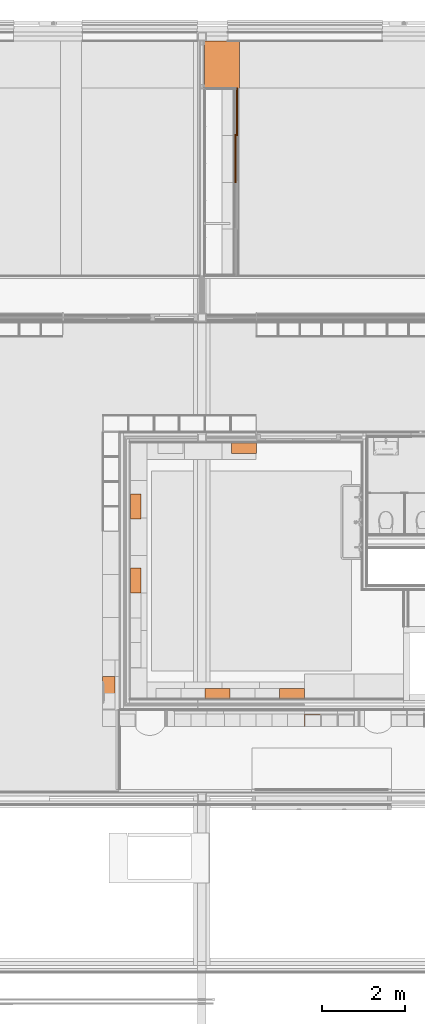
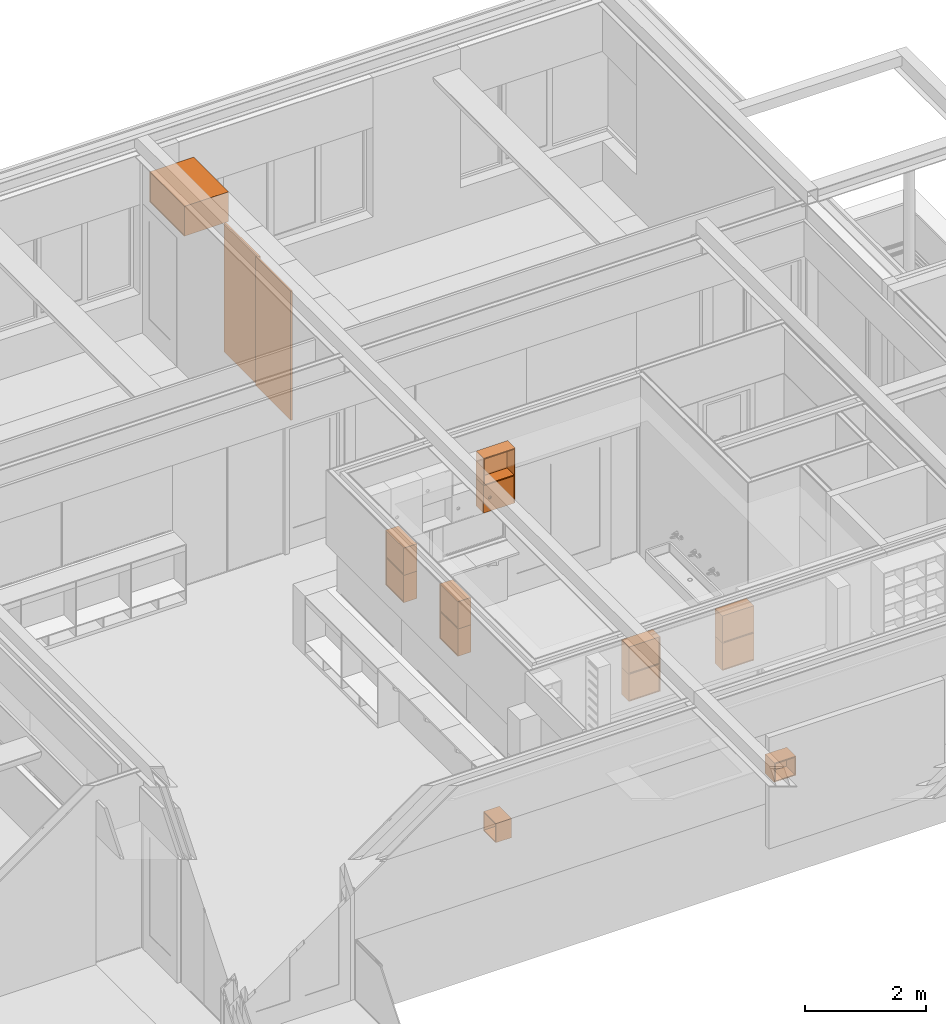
# One storey, part 125 of 137: 15 proxies.
"""IFC2X3 building model written with IfcOpenShell, lengths in millimetres."""

from ifc_helpers import new_model, entity, si_unit, converted_unit, derived_unit, money_unit, direction, frame, origin_with_axes, place, context, subcontext, project, spatial, faceted_brep, source, transform, mapped, type_object, type_shapes, element, save


model = new_model("IFC2X3")

# Units and contexts
model_context = context("Model", 3, precision=0.01, world=origin_with_axes(), true_north=direction((0.0, 1.0)))
body_context = subcontext(model_context, "Body", "Model", "MODEL_VIEW")
ifc_project = project(units=[si_unit("LENGTHUNIT", "METRE", prefix="MILLI"), si_unit("AREAUNIT", "SQUARE_METRE"), si_unit("VOLUMEUNIT", "CUBIC_METRE"), converted_unit("PLANEANGLEUNIT", "DEGREE", entity("IfcPlaneAngleMeasure", 0.0174532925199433), si_unit("PLANEANGLEUNIT", "RADIAN"), dimensions=[0, 0, 0, 0, 0, 0, 0]), money_unit("EUR"), converted_unit("TIMEUNIT", "Year", entity("IfcTimeMeasure", 31556926.0), si_unit("TIMEUNIT", "SECOND"), dimensions=[0, 0, 1, 0, 0, 0, 0]), si_unit("MASSUNIT", "GRAM", prefix="KILO"), si_unit("THERMODYNAMICTEMPERATUREUNIT", "DEGREE_CELSIUS"), si_unit("LUMINOUSINTENSITYUNIT", "LUMEN"), si_unit("ENERGYUNIT", "JOULE", prefix="MEGA"), derived_unit("THERMALCONDUCTANCEUNIT", [(si_unit("POWERUNIT", "WATT"), 1), (si_unit("LENGTHUNIT", "METRE"), -1), (si_unit("THERMODYNAMICTEMPERATUREUNIT", "KELVIN"), -1)]), derived_unit("SPECIFICHEATCAPACITYUNIT", [(si_unit("ENERGYUNIT", "JOULE"), 1), (si_unit("MASSUNIT", "GRAM", prefix="KILO"), -1), (si_unit("THERMODYNAMICTEMPERATUREUNIT", "KELVIN"), -1)]), derived_unit("MASSDENSITYUNIT", [(si_unit("MASSUNIT", "GRAM", prefix="KILO"), 1), (si_unit("VOLUMEUNIT", "CUBIC_METRE"), -1)])], contexts=[model_context])

# Site, building, storey
site_placement = place(None, origin_with_axes())
site = spatial("IfcSite", under=ifc_project, at=site_placement, Name="Site", CompositionType="ELEMENT")
building_placement = place(site_placement, origin_with_axes())
building = spatial("IfcBuilding", under=site, at=building_placement, Name="Naam gebouw", CompositionType="ELEMENT")
storey_placement = place(building_placement, frame((0.0, 0.0, 3960.0), z_axis=(0.0, 0.0, 1.0), x_axis=(1.0, 0.0, 0.0)))
storey = spatial("IfcBuildingStorey", under=building, at=storey_placement, Name="1e verdieping", CompositionType="ELEMENT", Elevation=3960.0)

# Proxies
building_element_proxy_type_1 = type_object("IfcBuildingElementProxyType", Name="Onderkast recht 26", PredefinedType="NOTDEFINED")
shared_shape_1 = source(origin_with_axes(), body_context, "Body", "Brep", [
    faceted_brep([(-1.0, -826.9999999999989, 1.0), (-1.0, -844.9999999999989, 1.000000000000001), (-1152.000152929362, -844.9999999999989, 1.000000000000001), (-1152.000152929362, -826.9999999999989, 1.0), (-1.0, -826.9999999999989, 599.0), (-1.0, -844.9999999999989, 599.0), (-1152.000152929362, -844.9999999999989, 599.0), (-1152.000152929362, -826.9999999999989, 599.0)], [[[0, 1, 2, 3]], [[4, 5, 1, 0]], [[1, 5, 6, 2]], [[3, 2, 6, 7]], [[0, 3, 7, 4]], [[7, 6, 5, 4]]]),
    faceted_brep([(-18.0, -826.9999999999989, 0.0), (-18.0, -826.9999999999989, 18.0), (-1135.000152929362, -826.9999999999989, 18.0), (-1135.000152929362, -826.9999999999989, 0.0), (-18.0, 0.0, 0.0), (-18.0, 0.0, 18.0), (-1135.000152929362, 0.0, 18.0), (-1135.000152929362, 0.0, 0.0)], [[[0, 1, 2, 3]], [[4, 5, 1, 0]], [[1, 5, 6, 2]], [[3, 2, 6, 7]], [[0, 3, 7, 4]], [[7, 6, 5, 4]]]),
    faceted_brep([(-18.0, -826.9999999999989, 582.0), (-18.0, -826.9999999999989, 600.0), (-1135.000152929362, -826.9999999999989, 600.0), (-1135.000152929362, -826.9999999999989, 582.0), (-18.0, 0.0, 582.0), (-18.0, 0.0, 600.0), (-1135.000152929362, 0.0, 600.0), (-1135.000152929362, 0.0, 582.0)], [[[0, 1, 2, 3]], [[4, 5, 1, 0]], [[1, 5, 6, 2]], [[3, 2, 6, 7]], [[0, 3, 7, 4]], [[7, 6, 5, 4]]]),
    faceted_brep([(0.0, 0.0, 0.0), (0.0, 0.0, 600.0), (0.0, -826.9999999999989, 600.0), (0.0, -826.9999999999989, 0.0), (-18.0, 0.0, 0.0), (-18.0, 0.0, 600.0), (-18.0, -826.9999999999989, 600.0), (-18.0, -826.9999999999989, 0.0)], [[[0, 1, 2, 3]], [[4, 5, 1, 0]], [[1, 5, 6, 2]], [[3, 2, 6, 7]], [[0, 3, 7, 4]], [[7, 6, 5, 4]]]),
    faceted_brep([(-1153.000152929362, -826.9999999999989, 0.0), (-1153.000152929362, -826.9999999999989, 600.0), (-1153.000152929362, 0.0, 600.0), (-1153.000152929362, 0.0, 0.0), (-1135.000152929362, -826.9999999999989, 0.0), (-1135.000152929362, -826.9999999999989, 600.0), (-1135.000152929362, 0.0, 600.0), (-1135.000152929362, 0.0, 0.0)], [[[0, 1, 2, 3]], [[4, 5, 1, 0]], [[1, 5, 6, 2]], [[3, 2, 6, 7]], [[0, 3, 7, 4]], [[7, 6, 5, 4]]]),
    faceted_brep([(-1135.000152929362, -9.0, 18.0), (-1135.000152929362, -9.0, 582.0), (-18.00000000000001, -9.0, 582.0), (-18.00000000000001, -9.0, 18.0), (-1135.000152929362, -18.0, 18.0), (-1135.000152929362, -18.0, 582.0), (-18.00000000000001, -18.0, 582.0), (-18.00000000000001, -18.0, 18.0)], [[[0, 1, 2, 3]], [[4, 5, 1, 0]], [[1, 5, 6, 2]], [[3, 2, 6, 7]], [[0, 3, 7, 4]], [[7, 6, 5, 4]]]),
])
proxy_1_placement = place(storey_placement, frame((17762.49942456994, 28961.0, 2600.0), z_axis=(0.0, 0.0, 1.0), x_axis=(0.0, 1.0, 0.0)))
element("IfcBuildingElementProxy", 1, at=proxy_1_placement, inside=storey, type_object=building_element_proxy_type_1, Name="_Leeg", context=body_context, shape_type="MappedRepresentation", body=[
    mapped(shared_shape_1, transform((0.0, 0.0, 0.0))),
])
building_element_proxy_type_2 = type_object("IfcBuildingElementProxyType", Name="gevelbekleding", PredefinedType="NOTDEFINED")
shared_shape_2 = source(origin_with_axes(), body_context, "Body", "Brep", [
    faceted_brep([(570.0000707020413, 0.0, 0.0), (570.0000707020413, -35.0, 0.0), (565.0000707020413, -35.0, 0.0), (565.0000707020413, 0.0, 0.0), (570.0000707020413, 0.0, 2600.0), (570.0000707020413, -35.0, 2600.0), (565.0000707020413, -35.0, 2600.0), (565.0000707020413, 0.0, 2600.0)], [[[0, 1, 2, 3]], [[4, 5, 1, 0]], [[1, 5, 6, 2]], [[3, 2, 6, 7]], [[0, 3, 7, 4]], [[7, 6, 5, 4]]]),
    faceted_brep([(-570.0000707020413, 0.0, 0.0), (-570.0000707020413, -35.0, 0.0), (-570.0000707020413, -35.0, 2600.0), (-570.0000707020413, 0.0, 2600.0), (-565.0000707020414, 0.0, 0.0), (-565.0000707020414, -35.0, 0.0), (-565.0000707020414, -35.0, 2600.0), (-565.0000707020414, 0.0, 2600.0)], [[[0, 1, 2, 3]], [[4, 5, 1, 0]], [[1, 5, 6, 2]], [[3, 2, 6, 7]], [[0, 3, 7, 4]], [[7, 6, 5, 4]]]),
    faceted_brep([(570.0000707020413, 0.0, 0.0), (570.0000707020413, -35.0, 0.0), (-570.0000707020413, -35.0, 0.0), (-570.0000707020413, 0.0, 0.0), (570.0000707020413, 0.0, 2600.0), (570.0000707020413, -35.0, 2600.0), (-570.0000707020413, -35.0, 2600.0), (-570.0000707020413, 0.0, 2600.0)], [[[0, 1, 2, 3]], [[4, 5, 1, 0]], [[1, 5, 6, 2]], [[3, 2, 6, 7]], [[0, 3, 7, 4]], [[7, 6, 5, 4]]]),
])
proxy_2_placement = place(storey_placement, frame((18562.49942456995, 27827.99984229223, 0.0), z_axis=(0.0, 0.0, 1.0), x_axis=(0.0, -1.0, 0.0)))
element("IfcBuildingElementProxy", 2, at=proxy_2_placement, inside=storey, type_object=building_element_proxy_type_2, Name="_-", context=body_context, shape_type="MappedRepresentation", body=[
    mapped(shared_shape_2, transform((570.00007070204, 0.0, 0.0))),
])
shared_shape_3 = source(origin_with_axes(), body_context, "Body", "Brep", [
    faceted_brep([(-577.5, 0.0, 0.0), (-572.5, 0.0, 0.0), (-572.5, -35.0, 0.0), (-577.5, -35.0, 0.0), (-577.5, 0.0, 2600.0), (-572.5, 0.0, 2600.0), (-572.5, -35.0, 2600.0), (-577.5, -35.0, 2600.0)], [[[0, 1, 2, 3]], [[0, 4, 5, 1]], [[1, 5, 6, 2]], [[3, 2, 6, 7]], [[4, 0, 3, 7]], [[5, 4, 7, 6]]]),
    faceted_brep([(577.5, 0.0, 0.0), (577.5, 0.0, 2600.0), (577.5, -35.0, 2600.0), (577.5, -35.0, 0.0), (572.5000000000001, 0.0, 0.0), (572.5000000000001, 0.0, 2600.0), (572.5000000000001, -35.0, 2600.0), (572.5000000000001, -35.0, 0.0)], [[[0, 1, 2, 3]], [[0, 4, 5, 1]], [[1, 5, 6, 2]], [[3, 2, 6, 7]], [[4, 0, 3, 7]], [[5, 4, 7, 6]]]),
    faceted_brep([(-577.5, 0.0, 0.0), (577.5, 0.0, 0.0), (577.5, -35.0, 0.0), (-577.5, -35.0, 0.0), (-577.5, 0.0, 2600.0), (577.5, 0.0, 2600.0), (577.5, -35.0, 2600.0), (-577.5, -35.0, 2600.0)], [[[0, 1, 2, 3]], [[0, 4, 5, 1]], [[1, 5, 6, 2]], [[3, 2, 6, 7]], [[4, 0, 3, 7]], [[5, 4, 7, 6]]]),
])
type_shapes(building_element_proxy_type_2, [shared_shape_2, shared_shape_3])
proxy_3_placement = place(storey_placement, frame((18562.49942456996, 26717.99977159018, 0.0), z_axis=(0.0, 0.0, 1.0), x_axis=(0.0, -1.0, 0.0)))
element("IfcBuildingElementProxy", 3, at=proxy_3_placement, inside=storey, type_object=building_element_proxy_type_2, Name="_-", context=body_context, shape_type="MappedRepresentation", body=[
    mapped(shared_shape_3, transform((577.5000000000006, -34.99999999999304, 0.0))),
])
shared_shape_4 = source(origin_with_axes(), body_context, "Body", "Brep", [
    faceted_brep([(-580.9999999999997, -250.0, 19.00000000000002), (-19.00000000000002, -250.0, 19.00000000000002), (-19.00000000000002, -250.0, 531.0000000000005), (-580.9999999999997, -250.0, 531.0000000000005), (-511.1907786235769, -250.0, 286.2606042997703), (-508.9807621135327, -250.0, 291.0000000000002), (-505.981333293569, -250.0, 295.2836282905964), (-502.2836282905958, -250.0, 298.9813332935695), (-497.9999999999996, -250.0, 301.9807621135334), (-493.2606042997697, -250.0, 304.1907786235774), (-488.2094453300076, -250.0, 305.5442325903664), (-482.9999999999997, -250.0, 306.0000000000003), (-477.7905546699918, -250.0, 305.5442325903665), (-472.7393957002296, -250.0, 304.1907786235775), (-467.9999999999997, -250.0, 301.9807621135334), (-463.7163717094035, -250.0, 298.9813332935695), (-460.0186667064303, -250.0, 295.2836282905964), (-457.0192378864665, -250.0, 291.0000000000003), (-454.8092213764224, -250.0, 286.2606042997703), (-453.4557674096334, -250.0, 281.2094453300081), (-452.9999999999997, -250.0, 276.0000000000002), (-453.4557674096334, -250.0, 270.7905546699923), (-454.8092213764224, -250.0, 265.7393957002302), (-457.0192378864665, -250.0, 261.0000000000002), (-460.0186667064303, -250.0, 256.7163717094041), (-463.7163717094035, -250.0, 253.0186667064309), (-467.9999999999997, -250.0, 250.0192378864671), (-472.7393957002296, -250.0, 247.809221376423), (-477.7905546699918, -250.0, 246.455767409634), (-482.9999999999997, -250.0, 246.0000000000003), (-488.2094453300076, -250.0, 246.455767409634), (-493.2606042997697, -250.0, 247.809221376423), (-497.9999999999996, -250.0, 250.0192378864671), (-502.2836282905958, -250.0, 253.0186667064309), (-505.981333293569, -250.0, 256.7163717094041), (-508.9807621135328, -250.0, 261.0000000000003), (-511.1907786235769, -250.0, 265.7393957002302), (-512.5442325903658, -250.0, 270.7905546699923), (-512.9999999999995, -250.0, 276.0000000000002), (-512.5442325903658, -250.0, 281.2094453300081), (-580.9999999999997, -232.0, 19.00000000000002), (-19.00000000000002, -232.0, 19.00000000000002), (-19.00000000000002, -232.0, 531.0000000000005), (-580.9999999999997, -232.0, 531.0000000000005), (-508.9807621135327, -232.0, 291.0000000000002), (-511.1907786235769, -232.0, 286.2606042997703), (-505.981333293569, -232.0, 295.2836282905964), (-502.2836282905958, -232.0, 298.9813332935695), (-497.9999999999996, -232.0, 301.9807621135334), (-493.2606042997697, -232.0, 304.1907786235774), (-488.2094453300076, -232.0, 305.5442325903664), (-482.9999999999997, -232.0, 306.0000000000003), (-477.7905546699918, -232.0, 305.5442325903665), (-472.7393957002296, -232.0, 304.1907786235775), (-467.9999999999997, -232.0, 301.9807621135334), (-463.7163717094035, -232.0, 298.9813332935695), (-460.0186667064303, -232.0, 295.2836282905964), (-457.0192378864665, -232.0, 291.0000000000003), (-454.8092213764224, -232.0, 286.2606042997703), (-453.4557674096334, -232.0, 281.2094453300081), (-452.9999999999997, -232.0, 276.0000000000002), (-453.4557674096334, -232.0, 270.7905546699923), (-454.8092213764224, -232.0, 265.7393957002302), (-457.0192378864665, -232.0, 261.0000000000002), (-460.0186667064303, -232.0, 256.7163717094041), (-463.7163717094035, -232.0, 253.0186667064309), (-467.9999999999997, -232.0, 250.0192378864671), (-472.7393957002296, -232.0, 247.809221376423), (-477.7905546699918, -232.0, 246.455767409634), (-482.9999999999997, -232.0, 246.0000000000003), (-488.2094453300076, -232.0, 246.455767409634), (-493.2606042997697, -232.0, 247.809221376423), (-497.9999999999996, -232.0, 250.0192378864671), (-502.2836282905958, -232.0, 253.0186667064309), (-505.981333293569, -232.0, 256.7163717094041), (-508.9807621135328, -232.0, 261.0000000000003), (-511.1907786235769, -232.0, 265.7393957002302), (-512.5442325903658, -232.0, 270.7905546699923), (-512.9999999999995, -232.0, 276.0000000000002), (-512.5442325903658, -232.0, 281.2094453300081)], [[[0, 1, 2, 3], [4, 5, 6, 7, 8, 9, 10, 11, 12, 13, 14, 15, 16, 17, 18, 19, 20, 21, 22, 23, 24, 25, 26, 27, 28, 29, 30, 31, 32, 33, 34, 35, 36, 37, 38, 39]], [[40, 41, 1, 0]], [[41, 42, 2, 1]], [[42, 43, 3, 2]], [[43, 40, 0, 3]], [[44, 5, 4, 45]], [[46, 6, 5, 44]], [[47, 7, 6, 46]], [[48, 8, 7, 47]], [[49, 9, 8, 48]], [[50, 10, 9, 49]], [[51, 11, 10, 50]], [[52, 12, 11, 51]], [[53, 13, 12, 52]], [[54, 14, 13, 53]], [[55, 15, 14, 54]], [[56, 16, 15, 55]], [[57, 17, 16, 56]], [[58, 18, 17, 57]], [[59, 19, 18, 58]], [[60, 20, 19, 59]], [[61, 21, 20, 60]], [[62, 22, 21, 61]], [[63, 23, 22, 62]], [[64, 24, 23, 63]], [[65, 25, 24, 64]], [[66, 26, 25, 65]], [[67, 27, 26, 66]], [[68, 28, 27, 67]], [[69, 29, 28, 68]], [[70, 30, 29, 69]], [[71, 31, 30, 70]], [[72, 32, 31, 71]], [[73, 33, 32, 72]], [[74, 34, 33, 73]], [[75, 35, 34, 74]], [[76, 36, 35, 75]], [[77, 37, 36, 76]], [[78, 38, 37, 77]], [[79, 39, 38, 78]], [[45, 4, 39, 79]], [[42, 41, 40, 43], [76, 75, 74, 73, 72, 71, 70, 69, 68, 67, 66, 65, 64, 63, 62, 61, 60, 59, 58, 57, 56, 55, 54, 53, 52, 51, 50, 49, 48, 47, 46, 44, 45, 79, 78, 77]]]),
    faceted_brep([(-18.0, -250.0, 0.0), (-18.0, -250.0, 18.0), (-581.9999999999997, -250.0, 18.0), (-581.9999999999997, -250.0, 0.0), (-18.0, 0.0, 0.0), (-18.0, 0.0, 18.0), (-581.9999999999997, 0.0, 18.0), (-581.9999999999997, 0.0, 0.0)], [[[0, 1, 2, 3]], [[4, 5, 1, 0]], [[1, 5, 6, 2]], [[3, 2, 6, 7]], [[0, 3, 7, 4]], [[7, 6, 5, 4]]]),
    faceted_brep([(-18.0, -250.0, 532.0000000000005), (-18.0, -250.0, 550.0000000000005), (-581.9999999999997, -250.0, 550.0000000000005), (-581.9999999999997, -250.0, 532.0000000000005), (-18.0, 0.0, 532.0000000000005), (-18.0, 0.0, 550.0000000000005), (-581.9999999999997, 0.0, 550.0000000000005), (-581.9999999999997, 0.0, 532.0000000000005)], [[[0, 1, 2, 3]], [[4, 5, 1, 0]], [[1, 5, 6, 2]], [[3, 2, 6, 7]], [[0, 3, 7, 4]], [[7, 6, 5, 4]]]),
    faceted_brep([(0.0, 0.0, 0.0), (0.0, 0.0, 550.0000000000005), (0.0, -250.0, 550.0000000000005), (0.0, -250.0, 0.0), (-18.0, 0.0, 0.0), (-18.0, 0.0, 550.0000000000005), (-18.0, -250.0, 550.0000000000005), (-18.0, -250.0, 0.0)], [[[0, 1, 2, 3]], [[4, 5, 1, 0]], [[1, 5, 6, 2]], [[3, 2, 6, 7]], [[0, 3, 7, 4]], [[7, 6, 5, 4]]]),
    faceted_brep([(-599.9999999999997, -250.0, 0.0), (-599.9999999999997, -250.0, 550.0000000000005), (-599.9999999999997, 0.0, 550.0000000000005), (-599.9999999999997, 0.0, 0.0), (-581.9999999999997, -250.0, 0.0), (-581.9999999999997, -250.0, 550.0000000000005), (-581.9999999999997, 0.0, 550.0000000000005), (-581.9999999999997, 0.0, 0.0)], [[[0, 1, 2, 3]], [[4, 5, 1, 0]], [[1, 5, 6, 2]], [[3, 2, 6, 7]], [[0, 3, 7, 4]], [[7, 6, 5, 4]]]),
    faceted_brep([(-581.9999999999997, -9.0, 18.0), (-581.9999999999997, -9.0, 532.0000000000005), (-18.00000000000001, -9.0, 532.0000000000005), (-18.00000000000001, -9.0, 18.0), (-581.9999999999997, -18.0, 18.0), (-581.9999999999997, -18.0, 532.0000000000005), (-18.00000000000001, -18.0, 532.0000000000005), (-18.00000000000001, -18.0, 18.0)], [[[0, 1, 2, 3]], [[4, 5, 1, 0]], [[1, 5, 6, 2]], [[3, 2, 6, 7]], [[0, 3, 7, 4]], [[7, 6, 5, 4]]]),
])
for number, where, z_axis, x_axis in (
    (4, (15984.99945960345, 16312.00727895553, 2650.000000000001), (0.0, 0.0, 1.0), (0.0, 1.0, 0.0)),
    (5, (15984.99945960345, 18094.00727895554, 2100.0), (0.0, 0.0, 1.0), (0.0, 1.0, 0.0)),
    (6, (19014.99945671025, 19314.9998112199, 2100.0), (0.0, 0.0, 1.0), (1.0, 0.0, 0.0)),
):
    element("IfcBuildingElementProxy", number, at=place(storey_placement, frame(where, z_axis=z_axis, x_axis=x_axis)), inside=storey, type_object=building_element_proxy_type_1, Name="_Leeg", context=body_context, shape_type="MappedRepresentation", body=[
        mapped(shared_shape_4, transform((0.0, 0.0, 0.0))),
    ])
shared_shape_5 = source(origin_with_axes(), body_context, "Body", "Brep", [
    faceted_brep([(18.0, -250.0, 0.0), (582.0, -250.0, 0.0), (582.0, -250.0, 18.0), (18.0, -250.0, 18.0), (18.0, 0.0, 0.0), (582.0, 0.0, 0.0), (582.0, 0.0, 18.0), (18.0, 0.0, 18.0)], [[[0, 1, 2, 3]], [[0, 4, 5, 1]], [[1, 5, 6, 2]], [[3, 2, 6, 7]], [[4, 0, 3, 7]], [[5, 4, 7, 6]]]),
    faceted_brep([(18.0, -250.0, 531.9999999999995), (582.0, -250.0, 531.9999999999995), (582.0, -250.0, 549.9999999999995), (18.0, -250.0, 549.9999999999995), (18.0, 0.0, 531.9999999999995), (582.0, 0.0, 531.9999999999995), (582.0, 0.0, 549.9999999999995), (18.0, 0.0, 549.9999999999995)], [[[0, 1, 2, 3]], [[0, 4, 5, 1]], [[1, 5, 6, 2]], [[3, 2, 6, 7]], [[4, 0, 3, 7]], [[5, 4, 7, 6]]]),
    faceted_brep([(0.0, 0.0, 0.0), (0.0, -250.0, 0.0), (0.0, -250.0, 549.9999999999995), (0.0, 0.0, 549.9999999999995), (18.0, 0.0, 0.0), (18.0, -250.0, 0.0), (18.0, -250.0, 549.9999999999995), (18.0, 0.0, 549.9999999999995)], [[[0, 1, 2, 3]], [[0, 4, 5, 1]], [[1, 5, 6, 2]], [[3, 2, 6, 7]], [[4, 0, 3, 7]], [[5, 4, 7, 6]]]),
    faceted_brep([(600.0, -250.0, 0.0), (600.0, 0.0, 0.0), (600.0, 0.0, 549.9999999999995), (600.0, -250.0, 549.9999999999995), (582.0, -250.0, 0.0), (582.0, 0.0, 0.0), (582.0, 0.0, 549.9999999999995), (582.0, -250.0, 549.9999999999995)], [[[0, 1, 2, 3]], [[0, 4, 5, 1]], [[1, 5, 6, 2]], [[3, 2, 6, 7]], [[4, 0, 3, 7]], [[5, 4, 7, 6]]]),
    faceted_brep([(582.0, -9.0, 18.0), (18.00000000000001, -9.0, 18.0), (18.00000000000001, -9.0, 531.9999999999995), (582.0, -9.0, 531.9999999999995), (582.0, -18.0, 18.0), (18.00000000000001, -18.0, 18.0), (18.00000000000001, -18.0, 531.9999999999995), (582.0, -18.0, 531.9999999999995)], [[[0, 1, 2, 3]], [[0, 4, 5, 1]], [[1, 5, 6, 2]], [[3, 2, 6, 7]], [[4, 0, 3, 7]], [[5, 4, 7, 6]]]),
])
for number, where, z_axis, x_axis in (
    (7, (15984.99945960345, 17494.00727895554, 2650.000000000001), (0.0, 0.0, 1.0), (0.0, 1.0, 0.0)),
    (8, (15984.99945960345, 15712.00727895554, 2100.000000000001), (0.0, 0.0, 1.0), (0.0, 1.0, 0.0)),
    (9, (18414.99945671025, 19314.9998112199, 2650.000000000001), (0.0, 0.0, 1.0), (1.0, 0.0, 0.0)),
):
    element("IfcBuildingElementProxy", number, at=place(storey_placement, frame(where, z_axis=z_axis, x_axis=x_axis)), inside=storey, type_object=building_element_proxy_type_1, Name="_Leeg", context=body_context, shape_type="MappedRepresentation", body=[
        mapped(shared_shape_5, transform((0.0, 0.0, 0.0))),
    ])
shared_shape_6 = source(origin_with_axes(), body_context, "Body", "Brep", [
    faceted_brep([(580.9999999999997, -250.0, 19.00000000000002), (580.9999999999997, -250.0, 531.0000000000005), (19.00000000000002, -250.0, 531.0000000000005), (19.00000000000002, -250.0, 19.00000000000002), (511.1907786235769, -250.0, 286.2606042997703), (512.5442325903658, -250.0, 281.2094453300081), (512.9999999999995, -250.0, 276.0000000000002), (512.5442325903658, -250.0, 270.7905546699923), (511.1907786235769, -250.0, 265.7393957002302), (508.9807621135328, -250.0, 261.0000000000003), (505.981333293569, -250.0, 256.7163717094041), (502.2836282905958, -250.0, 253.0186667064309), (497.9999999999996, -250.0, 250.0192378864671), (493.2606042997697, -250.0, 247.809221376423), (488.2094453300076, -250.0, 246.455767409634), (482.9999999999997, -250.0, 246.0000000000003), (477.7905546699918, -250.0, 246.455767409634), (472.7393957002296, -250.0, 247.809221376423), (467.9999999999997, -250.0, 250.0192378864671), (463.7163717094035, -250.0, 253.0186667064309), (460.0186667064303, -250.0, 256.7163717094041), (457.0192378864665, -250.0, 261.0000000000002), (454.8092213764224, -250.0, 265.7393957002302), (453.4557674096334, -250.0, 270.7905546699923), (452.9999999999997, -250.0, 276.0000000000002), (453.4557674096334, -250.0, 281.2094453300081), (454.8092213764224, -250.0, 286.2606042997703), (457.0192378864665, -250.0, 291.0000000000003), (460.0186667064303, -250.0, 295.2836282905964), (463.7163717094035, -250.0, 298.9813332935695), (467.9999999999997, -250.0, 301.9807621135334), (472.7393957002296, -250.0, 304.1907786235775), (477.7905546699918, -250.0, 305.5442325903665), (482.9999999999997, -250.0, 306.0000000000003), (488.2094453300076, -250.0, 305.5442325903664), (493.2606042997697, -250.0, 304.1907786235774), (497.9999999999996, -250.0, 301.9807621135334), (502.2836282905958, -250.0, 298.9813332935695), (505.981333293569, -250.0, 295.2836282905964), (508.9807621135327, -250.0, 291.0000000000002), (580.9999999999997, -232.0, 531.0000000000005), (580.9999999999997, -232.0, 19.00000000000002), (19.00000000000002, -232.0, 531.0000000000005), (19.00000000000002, -232.0, 19.00000000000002), (511.1907786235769, -232.0, 286.2606042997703), (512.5442325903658, -232.0, 281.2094453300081), (512.9999999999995, -232.0, 276.0000000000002), (512.5442325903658, -232.0, 270.7905546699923), (511.1907786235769, -232.0, 265.7393957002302), (508.9807621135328, -232.0, 261.0000000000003), (505.981333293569, -232.0, 256.7163717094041), (502.2836282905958, -232.0, 253.0186667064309), (497.9999999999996, -232.0, 250.0192378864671), (493.2606042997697, -232.0, 247.809221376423), (488.2094453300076, -232.0, 246.455767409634), (482.9999999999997, -232.0, 246.0000000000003), (477.7905546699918, -232.0, 246.455767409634), (472.7393957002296, -232.0, 247.809221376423), (467.9999999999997, -232.0, 250.0192378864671), (463.7163717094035, -232.0, 253.0186667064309), (460.0186667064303, -232.0, 256.7163717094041), (457.0192378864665, -232.0, 261.0000000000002), (454.8092213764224, -232.0, 265.7393957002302), (453.4557674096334, -232.0, 270.7905546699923), (452.9999999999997, -232.0, 276.0000000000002), (453.4557674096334, -232.0, 281.2094453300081), (454.8092213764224, -232.0, 286.2606042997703), (457.0192378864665, -232.0, 291.0000000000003), (460.0186667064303, -232.0, 295.2836282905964), (463.7163717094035, -232.0, 298.9813332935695), (467.9999999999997, -232.0, 301.9807621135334), (472.7393957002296, -232.0, 304.1907786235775), (477.7905546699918, -232.0, 305.5442325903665), (482.9999999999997, -232.0, 306.0000000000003), (488.2094453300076, -232.0, 305.5442325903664), (493.2606042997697, -232.0, 304.1907786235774), (497.9999999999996, -232.0, 301.9807621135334), (502.2836282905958, -232.0, 298.9813332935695), (505.981333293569, -232.0, 295.2836282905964), (508.9807621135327, -232.0, 291.0000000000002)], [[[0, 1, 2, 3], [4, 5, 6, 7, 8, 9, 10, 11, 12, 13, 14, 15, 16, 17, 18, 19, 20, 21, 22, 23, 24, 25, 26, 27, 28, 29, 30, 31, 32, 33, 34, 35, 36, 37, 38, 39]], [[40, 1, 0, 41]], [[42, 2, 1, 40]], [[43, 3, 2, 42]], [[41, 0, 3, 43]], [[44, 45, 5, 4]], [[45, 46, 6, 5]], [[46, 47, 7, 6]], [[47, 48, 8, 7]], [[48, 49, 9, 8]], [[49, 50, 10, 9]], [[50, 51, 11, 10]], [[51, 52, 12, 11]], [[52, 53, 13, 12]], [[53, 54, 14, 13]], [[54, 55, 15, 14]], [[55, 56, 16, 15]], [[56, 57, 17, 16]], [[57, 58, 18, 17]], [[58, 59, 19, 18]], [[59, 60, 20, 19]], [[60, 61, 21, 20]], [[61, 62, 22, 21]], [[62, 63, 23, 22]], [[63, 64, 24, 23]], [[64, 65, 25, 24]], [[65, 66, 26, 25]], [[66, 67, 27, 26]], [[67, 68, 28, 27]], [[68, 69, 29, 28]], [[69, 70, 30, 29]], [[70, 71, 31, 30]], [[71, 72, 32, 31]], [[72, 73, 33, 32]], [[73, 74, 34, 33]], [[74, 75, 35, 34]], [[75, 76, 36, 35]], [[76, 77, 37, 36]], [[77, 78, 38, 37]], [[78, 79, 39, 38]], [[79, 44, 4, 39]], [[42, 40, 41, 43], [48, 47, 46, 45, 44, 79, 78, 77, 76, 75, 74, 73, 72, 71, 70, 69, 68, 67, 66, 65, 64, 63, 62, 61, 60, 59, 58, 57, 56, 55, 54, 53, 52, 51, 50, 49]]]),
    faceted_brep([(18.0, -250.0, 0.0), (581.9999999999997, -250.0, 0.0), (581.9999999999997, -250.0, 18.0), (18.0, -250.0, 18.0), (18.0, 0.0, 0.0), (581.9999999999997, 0.0, 0.0), (581.9999999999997, 0.0, 18.0), (18.0, 0.0, 18.0)], [[[0, 1, 2, 3]], [[0, 4, 5, 1]], [[1, 5, 6, 2]], [[3, 2, 6, 7]], [[4, 0, 3, 7]], [[5, 4, 7, 6]]]),
    faceted_brep([(18.0, -250.0, 532.0000000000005), (581.9999999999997, -250.0, 532.0000000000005), (581.9999999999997, -250.0, 550.0000000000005), (18.0, -250.0, 550.0000000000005), (18.0, 0.0, 532.0000000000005), (581.9999999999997, 0.0, 532.0000000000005), (581.9999999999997, 0.0, 550.0000000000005), (18.0, 0.0, 550.0000000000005)], [[[0, 1, 2, 3]], [[0, 4, 5, 1]], [[1, 5, 6, 2]], [[3, 2, 6, 7]], [[4, 0, 3, 7]], [[5, 4, 7, 6]]]),
    faceted_brep([(0.0, 0.0, 0.0), (0.0, -250.0, 0.0), (0.0, -250.0, 550.0000000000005), (0.0, 0.0, 550.0000000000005), (18.0, 0.0, 0.0), (18.0, -250.0, 0.0), (18.0, -250.0, 550.0000000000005), (18.0, 0.0, 550.0000000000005)], [[[0, 1, 2, 3]], [[0, 4, 5, 1]], [[1, 5, 6, 2]], [[3, 2, 6, 7]], [[4, 0, 3, 7]], [[5, 4, 7, 6]]]),
    faceted_brep([(599.9999999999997, -250.0, 0.0), (599.9999999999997, 0.0, 0.0), (599.9999999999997, 0.0, 550.0000000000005), (599.9999999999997, -250.0, 550.0000000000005), (581.9999999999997, -250.0, 0.0), (581.9999999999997, 0.0, 0.0), (581.9999999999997, 0.0, 550.0000000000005), (581.9999999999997, -250.0, 550.0000000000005)], [[[0, 1, 2, 3]], [[0, 4, 5, 1]], [[1, 5, 6, 2]], [[3, 2, 6, 7]], [[4, 0, 3, 7]], [[5, 4, 7, 6]]]),
    faceted_brep([(581.9999999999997, -9.0, 18.0), (18.00000000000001, -9.0, 18.0), (18.00000000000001, -9.0, 532.0000000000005), (581.9999999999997, -9.0, 532.0000000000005), (581.9999999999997, -18.0, 18.0), (18.00000000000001, -18.0, 18.0), (18.00000000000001, -18.0, 532.0000000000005), (581.9999999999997, -18.0, 532.0000000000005)], [[[0, 1, 2, 3]], [[0, 4, 5, 1]], [[1, 5, 6, 2]], [[3, 2, 6, 7]], [[4, 0, 3, 7]], [[5, 4, 7, 6]]]),
])
for number, where, z_axis, x_axis in (
    (10, (18378.00661817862, 13174.99778166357, 2650.000000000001), (0.0, 0.0, 1.0), (-1.0, 0.0, 0.0)),
    (11, (20160.00661817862, 13174.99778166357, 2100.000000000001), (0.0, 0.0, 1.0), (-1.0, 0.0, 0.0)),
):
    element("IfcBuildingElementProxy", number, at=place(storey_placement, frame(where, z_axis=z_axis, x_axis=x_axis)), inside=storey, type_object=building_element_proxy_type_1, Name="_Leeg", context=body_context, shape_type="MappedRepresentation", body=[
        mapped(shared_shape_6, transform((0.0, 0.0, 0.0))),
    ])
shared_shape_7 = source(origin_with_axes(), body_context, "Body", "Brep", [
    faceted_brep([(-18.0, -250.0, 0.0), (-18.0, -250.0, 18.0), (-582.0, -250.0, 18.0), (-582.0, -250.0, 0.0), (-18.0, 0.0, 0.0), (-18.0, 0.0, 18.0), (-582.0, 0.0, 18.0), (-582.0, 0.0, 0.0)], [[[0, 1, 2, 3]], [[4, 5, 1, 0]], [[1, 5, 6, 2]], [[3, 2, 6, 7]], [[0, 3, 7, 4]], [[7, 6, 5, 4]]]),
    faceted_brep([(-18.0, -250.0, 531.9999999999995), (-18.0, -250.0, 549.9999999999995), (-582.0, -250.0, 549.9999999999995), (-582.0, -250.0, 531.9999999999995), (-18.0, 0.0, 531.9999999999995), (-18.0, 0.0, 549.9999999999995), (-582.0, 0.0, 549.9999999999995), (-582.0, 0.0, 531.9999999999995)], [[[0, 1, 2, 3]], [[4, 5, 1, 0]], [[1, 5, 6, 2]], [[3, 2, 6, 7]], [[0, 3, 7, 4]], [[7, 6, 5, 4]]]),
    faceted_brep([(0.0, 0.0, 0.0), (0.0, 0.0, 549.9999999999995), (0.0, -250.0, 549.9999999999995), (0.0, -250.0, 0.0), (-18.0, 0.0, 0.0), (-18.0, 0.0, 549.9999999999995), (-18.0, -250.0, 549.9999999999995), (-18.0, -250.0, 0.0)], [[[0, 1, 2, 3]], [[4, 5, 1, 0]], [[1, 5, 6, 2]], [[3, 2, 6, 7]], [[0, 3, 7, 4]], [[7, 6, 5, 4]]]),
    faceted_brep([(-600.0, -250.0, 0.0), (-600.0, -250.0, 549.9999999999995), (-600.0, 0.0, 549.9999999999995), (-600.0, 0.0, 0.0), (-582.0, -250.0, 0.0), (-582.0, -250.0, 549.9999999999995), (-582.0, 0.0, 549.9999999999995), (-582.0, 0.0, 0.0)], [[[0, 1, 2, 3]], [[4, 5, 1, 0]], [[1, 5, 6, 2]], [[3, 2, 6, 7]], [[0, 3, 7, 4]], [[7, 6, 5, 4]]]),
    faceted_brep([(-582.0, -9.0, 18.0), (-582.0, -9.0, 531.9999999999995), (-18.00000000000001, -9.0, 531.9999999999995), (-18.00000000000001, -9.0, 18.0), (-582.0, -18.0, 18.0), (-582.0, -18.0, 531.9999999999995), (-18.00000000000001, -18.0, 531.9999999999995), (-18.00000000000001, -18.0, 18.0)], [[[0, 1, 2, 3]], [[4, 5, 1, 0]], [[1, 5, 6, 2]], [[3, 2, 6, 7]], [[0, 3, 7, 4]], [[7, 6, 5, 4]]]),
])
for number, where, z_axis, x_axis in (
    (12, (17778.00661817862, 13174.99778166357, 2100.000000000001), (0.0, 0.0, 1.0), (-1.0, 0.0, 0.0)),
    (13, (19560.00661817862, 13174.99778166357, 2650.000000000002), (0.0, 0.0, 1.0), (-1.0, 0.0, 0.0)),
):
    element("IfcBuildingElementProxy", number, at=place(storey_placement, frame(where, z_axis=z_axis, x_axis=x_axis)), inside=storey, type_object=building_element_proxy_type_1, Name="_Leeg", context=body_context, shape_type="MappedRepresentation", body=[
        mapped(shared_shape_7, transform((0.0, 0.0, 0.0))),
    ])
shared_shape_8 = source(origin_with_axes(), body_context, "Body", "Brep", [
    faceted_brep([(-20.0, -300.0, 0.0), (-20.0, -300.0, 20.0), (-389.9999999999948, -300.0, 20.0), (-389.9999999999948, -300.0, 0.0), (-20.0, 0.0, 0.0), (-20.0, 0.0, 20.0), (-389.9999999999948, 0.0, 20.0), (-389.9999999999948, 0.0, 0.0)], [[[0, 1, 2, 3]], [[4, 5, 1, 0]], [[1, 5, 6, 2]], [[3, 2, 6, 7]], [[0, 3, 7, 4]], [[7, 6, 5, 4]]]),
    faceted_brep([(-20.0, -300.0, 364.6666666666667), (-20.0, -300.0, 384.6666666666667), (-389.9999999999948, -300.0, 384.6666666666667), (-389.9999999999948, -300.0, 364.6666666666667), (-20.0, 0.0, 364.6666666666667), (-20.0, 0.0, 384.6666666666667), (-389.9999999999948, 0.0, 384.6666666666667), (-389.9999999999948, 0.0, 364.6666666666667)], [[[0, 1, 2, 3]], [[4, 5, 1, 0]], [[1, 5, 6, 2]], [[3, 2, 6, 7]], [[0, 3, 7, 4]], [[7, 6, 5, 4]]]),
    faceted_brep([(0.0, 0.0, 0.0), (0.0, 0.0, 384.6666666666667), (0.0, -300.0, 384.6666666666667), (0.0, -300.0, 0.0), (-20.0, 0.0, 0.0), (-20.0, 0.0, 384.6666666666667), (-20.0, -300.0, 384.6666666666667), (-20.0, -300.0, 0.0)], [[[0, 1, 2, 3]], [[4, 5, 1, 0]], [[1, 5, 6, 2]], [[3, 2, 6, 7]], [[0, 3, 7, 4]], [[7, 6, 5, 4]]]),
    faceted_brep([(-409.9999999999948, -300.0, 0.0), (-409.9999999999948, -300.0, 384.6666666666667), (-409.9999999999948, 0.0, 384.6666666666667), (-409.9999999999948, 0.0, 0.0), (-389.9999999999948, -300.0, 0.0), (-389.9999999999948, -300.0, 384.6666666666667), (-389.9999999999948, 0.0, 384.6666666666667), (-389.9999999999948, 0.0, 0.0)], [[[0, 1, 2, 3]], [[4, 5, 1, 0]], [[1, 5, 6, 2]], [[3, 2, 6, 7]], [[0, 3, 7, 4]], [[7, 6, 5, 4]]]),
    faceted_brep([(-389.9999999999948, -10.0, 20.0), (-389.9999999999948, -10.0, 364.6666666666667), (-20.00000000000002, -10.0, 364.6666666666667), (-20.00000000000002, -10.0, 20.0), (-389.9999999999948, -20.0, 20.0), (-389.9999999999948, -20.0, 364.6666666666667), (-20.00000000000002, -20.0, 364.6666666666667), (-20.00000000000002, -20.0, 20.0)], [[[0, 1, 2, 3]], [[4, 5, 1, 0]], [[1, 5, 6, 2]], [[3, 2, 6, 7]], [[0, 3, 7, 4]], [[7, 6, 5, 4]]]),
])
type_shapes(building_element_proxy_type_1, [shared_shape_1, shared_shape_4, shared_shape_5, shared_shape_6, shared_shape_7, shared_shape_8])
for number, where, z_axis, x_axis in (
    (14, (15614.99945671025, 13294.9998112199, 49.99999999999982), (0.0, 0.0, 1.0), (0.0, -1.0, 0.0)),
    (15, (20570.00661817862, 12804.99778166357, 49.99999999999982), (0.0, 0.0, 1.0), (1.0, 0.0, 0.0)),
):
    element("IfcBuildingElementProxy", number, at=place(storey_placement, frame(where, z_axis=z_axis, x_axis=x_axis)), inside=storey, type_object=building_element_proxy_type_1, Name="_Leeg", context=body_context, shape_type="MappedRepresentation", body=[
        mapped(shared_shape_8, transform((0.0, 0.0, 0.0))),
    ])

save(model, "model.ifc")
